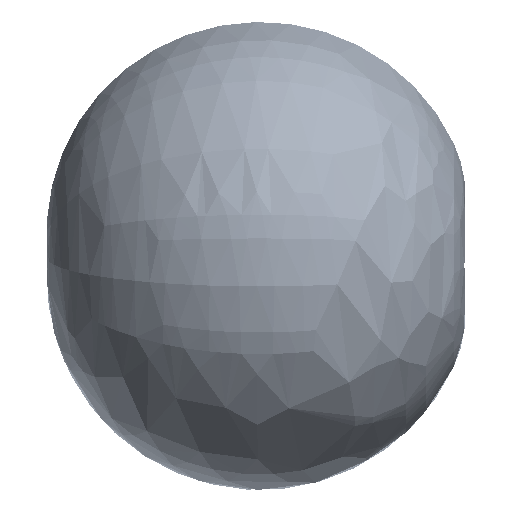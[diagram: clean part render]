
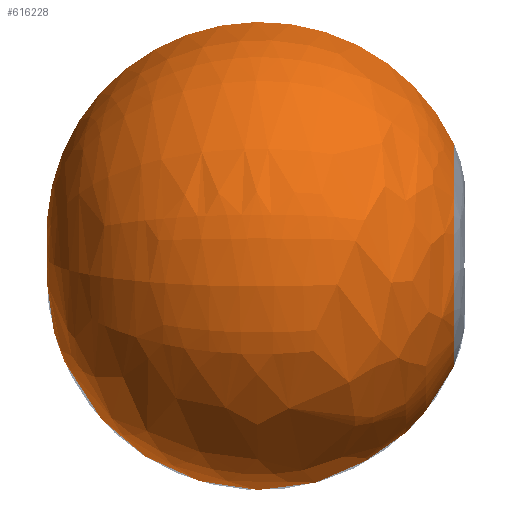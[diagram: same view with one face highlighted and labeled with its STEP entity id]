
A CAD part, left-side view. The second image highlights one B-rep face of the part: STEP entity #616228.
In plain terms, the highlighted free-form (B-spline) face has degree [3, 3] with [7, 4] control points.
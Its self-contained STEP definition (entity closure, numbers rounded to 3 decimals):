
#616077=CARTESIAN_POINT('',(-32.993,455.,187.113));
#616078=DIRECTION('',(-0.985,0.,-0.174));
#616079=DIRECTION('',(-0.073,-0.906,0.416));
#616080=AXIS2_PLACEMENT_3D('',#616077,#616078,#616079);
#616110=CARTESIAN_POINT('',(0.,-1198.418,0.));
#616111=DIRECTION('',(0.,-1.,0.));
#616112=DIRECTION('',(-0.174,0.,0.985));
#616113=AXIS2_PLACEMENT_3D('',#616110,#616111,#616112);
#616115=CARTESIAN_POINT('',(32.993,455.,187.113));
#616116=DIRECTION('',(-0.985,0.,0.174));
#616117=DIRECTION('',(0.073,-0.906,0.416));
#616118=AXIS2_PLACEMENT_3D('',#616115,#616116,#616117);
#616150=CARTESIAN_POINT('',(-166.876,-1198.418,
946.401));
#616151=CARTESIAN_POINT('',(0.,2269.423,
0.));
#616152=VERTEX_POINT('',#616150);
#616153=VERTEX_POINT('',#616151);
#616164=CARTESIAN_POINT('',(166.876,-1198.418,
946.401));
#616165=VERTEX_POINT('',#616164);
#616192=CARTESIAN_POINT('',(0.,2269.423,
0.));
#616193=CARTESIAN_POINT('',(-157.377,2564.649,
2814.892));
#616194=CARTESIAN_POINT('',(-195.334,-187.29,
3493.809));
#616195=CARTESIAN_POINT('',(-48.393,-1239.109,
865.573));
#616196=CARTESIAN_POINT('',(0.,2269.423,
0.));
#616197=CARTESIAN_POINT('',(-5487.323,2564.649,
2516.901));
#616198=CARTESIAN_POINT('',(-6810.799,-187.29,
3123.947));
#616199=CARTESIAN_POINT('',(-1687.339,-1239.109,
773.941));
#616200=CARTESIAN_POINT('',(0.,2269.423,
0.));
#616201=CARTESIAN_POINT('',(-5338.27,2564.649,
-2819.288));
#616202=CARTESIAN_POINT('',(-6625.796,-187.29,
-3499.265));
#616203=CARTESIAN_POINT('',(-1641.506,-1239.109,
-866.925));
#616204=CARTESIAN_POINT('',(0.,2269.423,0.));
#616205=CARTESIAN_POINT('',(0.,2564.649,
-2819.288));
#616206=CARTESIAN_POINT('',(0.,-187.29,
-3499.265));
#616207=CARTESIAN_POINT('',(0.,-1239.109,
-866.925));
#616208=CARTESIAN_POINT('',(0.,2269.423,
0.));
#616209=CARTESIAN_POINT('',(5338.27,2564.649,
-2819.288));
#616210=CARTESIAN_POINT('',(6625.796,-187.29,
-3499.265));
#616211=CARTESIAN_POINT('',(1641.506,-1239.109,
-866.925));
#616212=CARTESIAN_POINT('',(0.,2269.423,
0.));
#616213=CARTESIAN_POINT('',(5487.323,2564.649,
2516.901));
#616214=CARTESIAN_POINT('',(6810.799,-187.29,
3123.947));
#616215=CARTESIAN_POINT('',(1687.339,-1239.109,
773.941));
#616216=CARTESIAN_POINT('',(0.,2269.423,
0.));
#616217=CARTESIAN_POINT('',(157.377,2564.649,
2814.892));
#616218=CARTESIAN_POINT('',(195.334,-187.29,
3493.809));
#616219=CARTESIAN_POINT('',(48.393,-1239.109,
865.573));
#616220=(BOUNDED_SURFACE()B_SPLINE_SURFACE(3,3,((#616192,#616193,#616194,
#616195),(#616196,#616197,#616198,#616199),(#616200,#616201,#616202,#616203),(
#616204,#616205,#616206,#616207),(#616208,#616209,#616210,#616211),(#616212,
#616213,#616214,#616215),(#616216,#616217,#616218,#616219)),.UNSPECIFIED.,.F.,
.F.,.F.)B_SPLINE_SURFACE_WITH_KNOTS((4,3,4),(4,4),(0.,1.,2.),(0.,1.),
.UNSPECIFIED.)GEOMETRIC_REPRESENTATION_ITEM()RATIONAL_B_SPLINE_SURFACE(((
3.421,1.454,1.454,3.421),(
1.204,0.512,0.512,1.204),(
1.204,0.512,0.512,1.204),(
3.421,1.454,1.454,3.421),(
1.204,0.512,0.512,1.204),(
1.204,0.512,0.512,1.204),(
3.421,1.454,1.454,3.421)))REPRESENTATION_ITEM('')SURFACE());
#616221=ORIENTED_EDGE('',*,*,#616175,.F.);
#616223=ORIENTED_EDGE('',*,*,#616222,.T.);
#616225=ORIENTED_EDGE('',*,*,#616224,.T.);
#616226=EDGE_LOOP('',(#616221,#616223,#616225));
#616227=FACE_OUTER_BOUND('',#616226,.F.);
#616228=ADVANCED_FACE('',(#616227),#616220,.T.);
#616081=CIRCLE('',#616080,1824.344);
#616114=CIRCLE('',#616113,961.001);
#616119=CIRCLE('',#616118,1824.344);
#616175=EDGE_CURVE('',#616152,#616153,#616081,.T.);
#616222=EDGE_CURVE('',#616152,#616165,#616114,.T.);
#616224=EDGE_CURVE('',#616165,#616153,#616119,.T.);
